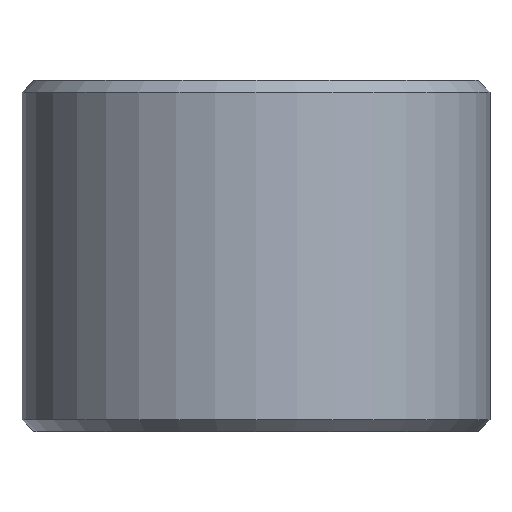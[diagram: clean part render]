
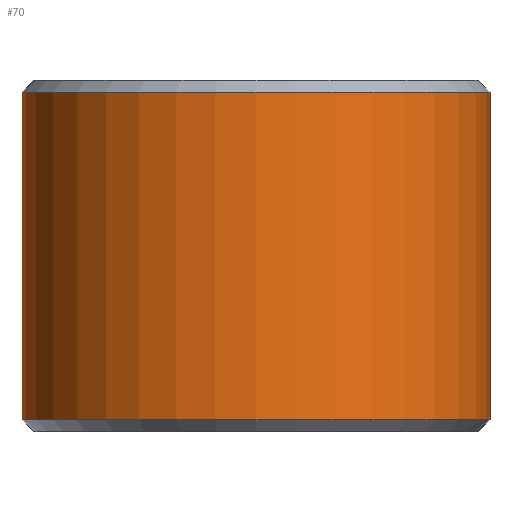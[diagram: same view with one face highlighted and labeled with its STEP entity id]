
A CAD part, front view. The second image highlights one B-rep face of the part: STEP entity #70.
In plain terms, the highlighted cylindrical face has radius 40 mm (diameter 80 mm), a partial arc.
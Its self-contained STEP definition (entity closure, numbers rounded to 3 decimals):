
#6 = VECTOR ( 'NONE', #72, 1000. ) ;
#26 = CARTESIAN_POINT ( 'NONE',  ( 0., 0., 30. ) ) ;
#44 = EDGE_CURVE ( 'NONE', #257, #218, #199, .T. ) ;
#58 = VERTEX_POINT ( 'NONE', #365 ) ;
#70 = ADVANCED_FACE ( 'NONE', ( #299 ), #293, .T. ) ;
#72 = DIRECTION ( 'NONE',  ( 0., 0., -1. ) ) ;
#77 = ORIENTED_EDGE ( 'NONE', *, *, #44, .T. ) ;
#124 = DIRECTION ( 'NONE',  ( 0., 0., 1. ) ) ;
#126 = CARTESIAN_POINT ( 'NONE',  ( 0., 0., 28. ) ) ;
#127 = AXIS2_PLACEMENT_3D ( 'NONE', #26, #440, #306 ) ;
#142 = EDGE_CURVE ( 'NONE', #58, #248, #243, .T. ) ;
#149 = ORIENTED_EDGE ( 'NONE', *, *, #142, .T. ) ;
#160 = CARTESIAN_POINT ( 'NONE',  ( 0., 0., -28. ) ) ;
#173 = DIRECTION ( 'NONE',  ( 0., 0., -1. ) ) ;
#198 = DIRECTION ( 'NONE',  ( 1., 0., 0. ) ) ;
#199 = CIRCLE ( 'NONE', #399, 40. ) ;
#208 = CARTESIAN_POINT ( 'NONE',  ( -40., 0., 28. ) ) ;
#218 = VERTEX_POINT ( 'NONE', #412 ) ;
#228 = EDGE_LOOP ( 'NONE', ( #358, #149, #368, #77 ) ) ;
#237 = VECTOR ( 'NONE', #173, 1000. ) ;
#243 = CIRCLE ( 'NONE', #426, 40. ) ;
#246 = CARTESIAN_POINT ( 'NONE',  ( -40., 0., 30. ) ) ;
#248 = VERTEX_POINT ( 'NONE', #208 ) ;
#249 = EDGE_CURVE ( 'NONE', #58, #218, #281, .T. ) ;
#257 = VERTEX_POINT ( 'NONE', #375 ) ;
#266 = DIRECTION ( 'NONE',  ( 0., 0., -1. ) ) ;
#281 = LINE ( 'NONE', #318, #237 ) ;
#293 = CYLINDRICAL_SURFACE ( 'NONE', #127, 40. ) ;
#299 = FACE_OUTER_BOUND ( 'NONE', #228, .T. ) ;
#306 = DIRECTION ( 'NONE',  ( -1., 0., 0. ) ) ;
#318 = CARTESIAN_POINT ( 'NONE',  ( 40., 0., 30. ) ) ;
#356 = EDGE_CURVE ( 'NONE', #248, #257, #417, .T. ) ;
#358 = ORIENTED_EDGE ( 'NONE', *, *, #249, .F. ) ;
#365 = CARTESIAN_POINT ( 'NONE',  ( 40., 0., 28. ) ) ;
#368 = ORIENTED_EDGE ( 'NONE', *, *, #356, .T. ) ;
#375 = CARTESIAN_POINT ( 'NONE',  ( -40., 0., -28. ) ) ;
#399 = AXIS2_PLACEMENT_3D ( 'NONE', #160, #124, #401 ) ;
#401 = DIRECTION ( 'NONE',  ( 1., 0., 0. ) ) ;
#412 = CARTESIAN_POINT ( 'NONE',  ( 40., 0., -28. ) ) ;
#417 = LINE ( 'NONE', #246, #6 ) ;
#426 = AXIS2_PLACEMENT_3D ( 'NONE', #126, #266, #198 ) ;
#440 = DIRECTION ( 'NONE',  ( 0., 0., -1. ) ) ;
